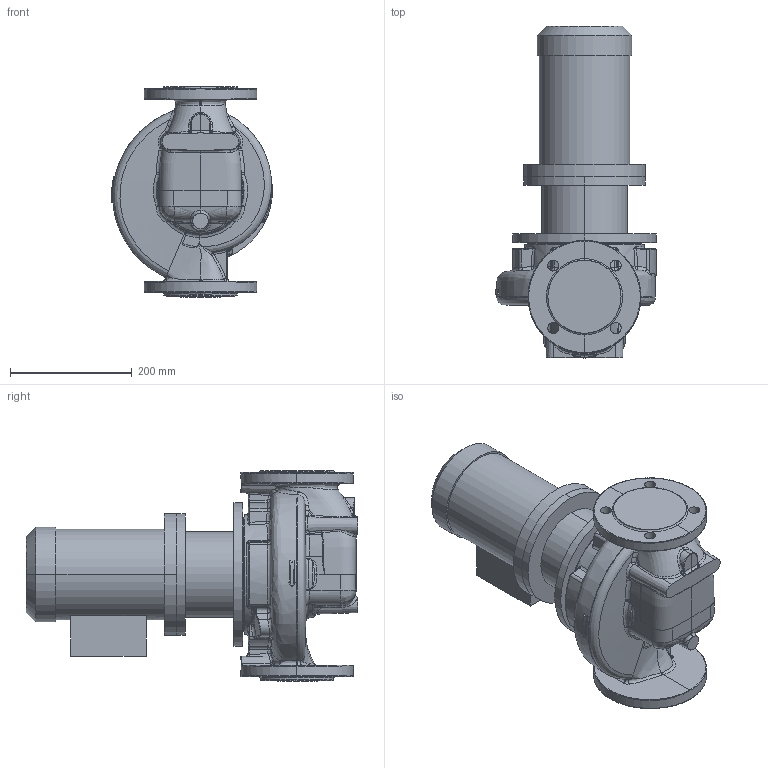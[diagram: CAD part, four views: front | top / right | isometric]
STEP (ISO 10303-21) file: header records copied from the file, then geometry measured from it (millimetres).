
FILE_DESCRIPTION (( 'STEP AP214' ), '1' );
FILE_NAME ('KRL 65-160-4-0,75.STEP', '2026-03-23T07:44:58', ( '' ), ( '' ), 'SwSTEP 2.0', 'SolidWorks 2016', '' );
FILE_SCHEMA (( 'AUTOMOTIVE_DESIGN' ));
Length unit declared in the file: millimetre
Products named in the file (1): KRL 65-160-4-0,75
Bounding box: 263.79 x 544.3 x 345 mm (x, y, z)
Volume: 15879097.9 mm3; surface area: 814139.9 mm2
Topology: 4 solids, 4 shells, 642 faces, 1526 edges, 886 vertices
Faces by surface type: bspline 357, cylinder 106, plane 88, sphere 42, cone 31, torus 18
Entity records: 67941 total; most frequent: CARTESIAN_POINT 49083, ORIENTED_EDGE 3008, DIRECTION 1705, EDGE_CURVE 1504, VERTEX_POINT 886, AXIS2_PLACEMENT_3D 752, B_SPLINE_CURVE_WITH_KNOTS 711, EDGE_LOOP 666
